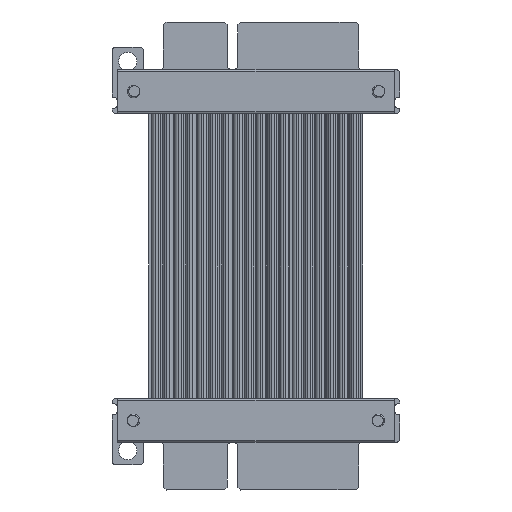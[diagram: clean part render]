
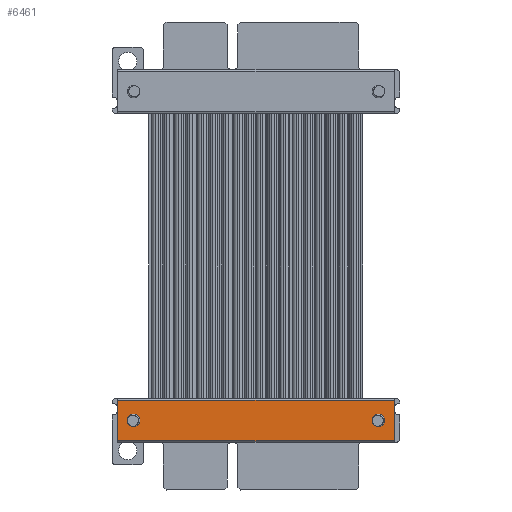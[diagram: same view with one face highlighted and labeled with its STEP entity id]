
A CAD part, top view. The second image highlights one B-rep face of the part: STEP entity #6461.
In plain terms, the highlighted planar face has unit normal (0, 0, 1) as drawn and (-1, 0, 0) by its records, which use the part's own axes.
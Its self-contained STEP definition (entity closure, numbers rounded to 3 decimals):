
#6433 = VERTEX_POINT('',#6434);
#6434 = CARTESIAN_POINT('',(0.,7.1,0.));
#6441 = EDGE_CURVE('',#6442,#6433,#6444,.T.);
#6442 = VERTEX_POINT('',#6443);
#6443 = CARTESIAN_POINT('',(0.,7.1,48.4));
#6444 = LINE('',#6445,#6446);
#6445 = CARTESIAN_POINT('',(0.,7.1,48.4));
#6446 = VECTOR('',#6447,1.);
#6447 = DIRECTION('',(-0.,-0.,-1.));
#6461 = ADVANCED_FACE('',(#6462,#6473,#6493),#6518,.F.);
#6462 = FACE_BOUND('',#6463,.F.);
#6463 = EDGE_LOOP('',(#6464));
#6464 = ORIENTED_EDGE('',*,*,#6465,.T.);
#6465 = EDGE_CURVE('',#6466,#6466,#6468,.T.);
#6466 = VERTEX_POINT('',#6467);
#6467 = CARTESIAN_POINT('',(0.,2.45,2.75));
#6468 = CIRCLE('',#6469,1.1);
#6469 = AXIS2_PLACEMENT_3D('',#6470,#6471,#6472);
#6470 = CARTESIAN_POINT('',(0.,3.55,2.75));
#6471 = DIRECTION('',(-1.,0.,0.));
#6472 = DIRECTION('',(0.,-1.,0.));
#6473 = FACE_BOUND('',#6474,.F.);
#6474 = EDGE_LOOP('',(#6475,#6486));
#6475 = ORIENTED_EDGE('',*,*,#6476,.T.);
#6476 = EDGE_CURVE('',#6477,#6479,#6481,.T.);
#6477 = VERTEX_POINT('',#6478);
#6478 = CARTESIAN_POINT('',(0.,4.65,45.65));
#6479 = VERTEX_POINT('',#6480);
#6480 = CARTESIAN_POINT('',(0.,2.45,45.65));
#6481 = CIRCLE('',#6482,1.1);
#6482 = AXIS2_PLACEMENT_3D('',#6483,#6484,#6485);
#6483 = CARTESIAN_POINT('',(0.,3.55,45.65));
#6484 = DIRECTION('',(-1.,0.,0.));
#6485 = DIRECTION('',(0.,1.,0.));
#6486 = ORIENTED_EDGE('',*,*,#6487,.T.);
#6487 = EDGE_CURVE('',#6479,#6477,#6488,.T.);
#6488 = CIRCLE('',#6489,1.1);
#6489 = AXIS2_PLACEMENT_3D('',#6490,#6491,#6492);
#6490 = CARTESIAN_POINT('',(0.,3.55,45.65));
#6491 = DIRECTION('',(-1.,0.,0.));
#6492 = DIRECTION('',(0.,1.,0.));
#6493 = FACE_BOUND('',#6494,.T.);
#6494 = EDGE_LOOP('',(#6495,#6503,#6511,#6517));
#6495 = ORIENTED_EDGE('',*,*,#6496,.T.);
#6496 = EDGE_CURVE('',#6433,#6497,#6499,.T.);
#6497 = VERTEX_POINT('',#6498);
#6498 = CARTESIAN_POINT('',(0.,0.,0.));
#6499 = LINE('',#6500,#6501);
#6500 = CARTESIAN_POINT('',(0.,0.,0.));
#6501 = VECTOR('',#6502,1.);
#6502 = DIRECTION('',(0.,-1.,-0.));
#6503 = ORIENTED_EDGE('',*,*,#6504,.F.);
#6504 = EDGE_CURVE('',#6505,#6497,#6507,.T.);
#6505 = VERTEX_POINT('',#6506);
#6506 = CARTESIAN_POINT('',(0.,0.,48.4));
#6507 = LINE('',#6508,#6509);
#6508 = CARTESIAN_POINT('',(0.,0.,48.4));
#6509 = VECTOR('',#6510,1.);
#6510 = DIRECTION('',(-0.,-0.,-1.));
#6511 = ORIENTED_EDGE('',*,*,#6512,.F.);
#6512 = EDGE_CURVE('',#6442,#6505,#6513,.T.);
#6513 = LINE('',#6514,#6515);
#6514 = CARTESIAN_POINT('',(0.,0.,48.4));
#6515 = VECTOR('',#6516,1.);
#6516 = DIRECTION('',(0.,-1.,-0.));
#6517 = ORIENTED_EDGE('',*,*,#6441,.T.);
#6518 = PLANE('',#6519);
#6519 = AXIS2_PLACEMENT_3D('',#6520,#6521,#6522);
#6520 = CARTESIAN_POINT('',(0.,0.,48.4));
#6521 = DIRECTION('',(1.,0.,0.));
#6522 = DIRECTION('',(0.,1.,0.));
